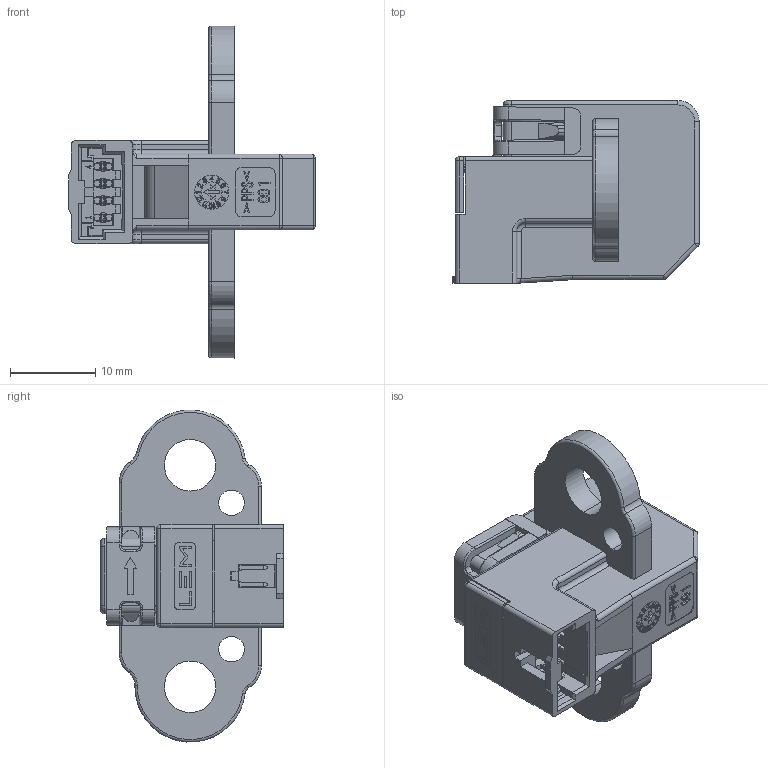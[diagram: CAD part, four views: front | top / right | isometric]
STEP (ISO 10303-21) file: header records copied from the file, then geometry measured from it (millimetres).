
FILE_DESCRIPTION(('Creo Elements/Direct Modeling STEP Export'),'2;1');
FILE_NAME('BBOX_HST SP_2022.06.28.stp','2022-06-28T14:47:21',(''),(''),'Creo Elements/Direct Modeling STEP processor for AP214 (Solid Model)','Creo Elements/Direct Modeling 20.1 10-Mar-2018 (C) Parametric Technology GmbH','');
FILE_SCHEMA(('AUTOMOTIVE_DESIGN { 1 0 10303 214 1 1 1 1 }'));
Length unit declared in the file: millimetre
Products named in the file (2): BBOX_HST_ID6_0_20220628.1
Assembly tree (1 placements, depth 2):
  BBOX_HST_ID6_0_20220628.1
    BBOX_HST_ID6_0_20220628.1
Bounding box: 28.91 x 21.43 x 38.97 mm (x, y, z)
Volume: 5589.2 mm3; surface area: 4539.1 mm2
Topology: 1 solids, 9 shells, 1190 faces, 3238 edges, 2111 vertices
Faces by surface type: plane 891, cylinder 227, torus 24, bspline 22, cone 10, extrusion 10, sphere 6
Entity records: 48726 total; most frequent: CARTESIAN_POINT 9096, ORIENTED_EDGE 6464, DIRECTION 5807, EDGE_CURVE 3232, VECTOR 2585, LINE 2575, VERTEX_POINT 2111, AXIS2_PLACEMENT_3D 1611
